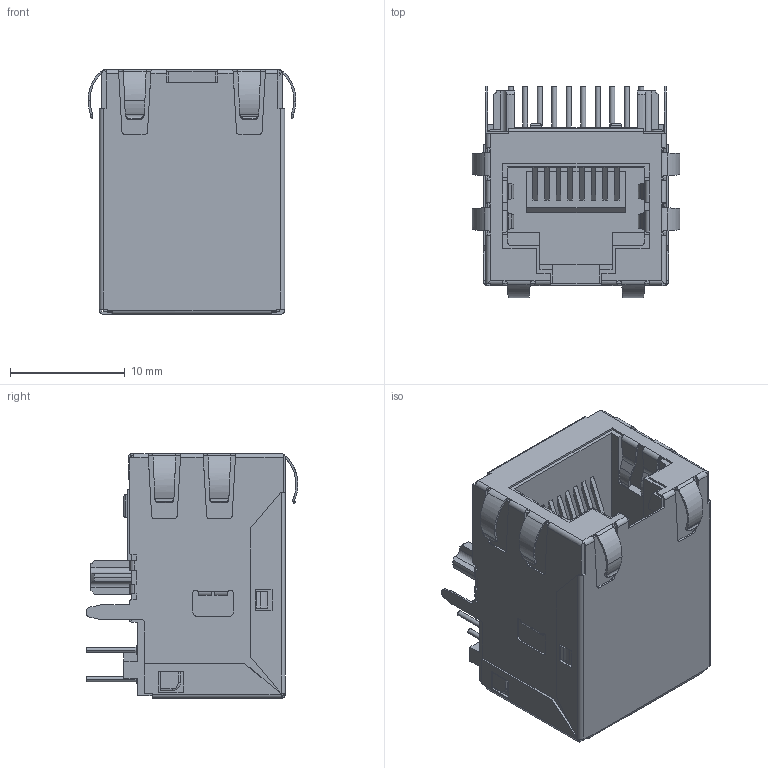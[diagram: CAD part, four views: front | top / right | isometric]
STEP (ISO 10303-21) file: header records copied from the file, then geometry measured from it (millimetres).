
FILE_DESCRIPTION (( 'STEP AP214' ), '1' );
FILE_NAME ('0936278020.step', '2025-12-23T15:58:31', ( '' ), ( '' ), 'SwSTEP 2.0', 'SolidWorks 2026', '' );
FILE_SCHEMA (( 'AUTOMOTIVE_DESIGN' ));
Length unit declared in the file: inch
Products named in the file (1): 0936278020
Bounding box: 18.16 x 18.5 x 21.37 mm (x, y, z)
Volume: 3467.6 mm3; surface area: 2876.6 mm2
Topology: 1 solids, 1 shells, 699 faces, 2039 edges, 1362 vertices
Faces by surface type: plane 426, cylinder 247, bspline 16, cone 8, torus 2
Entity records: 24541 total; most frequent: CARTESIAN_POINT 6653, ORIENTED_EDGE 4030, DIRECTION 3254, EDGE_CURVE 2015, VERTEX_POINT 1314, VECTOR 1302, LINE 1302, AXIS2_PLACEMENT_3D 976
